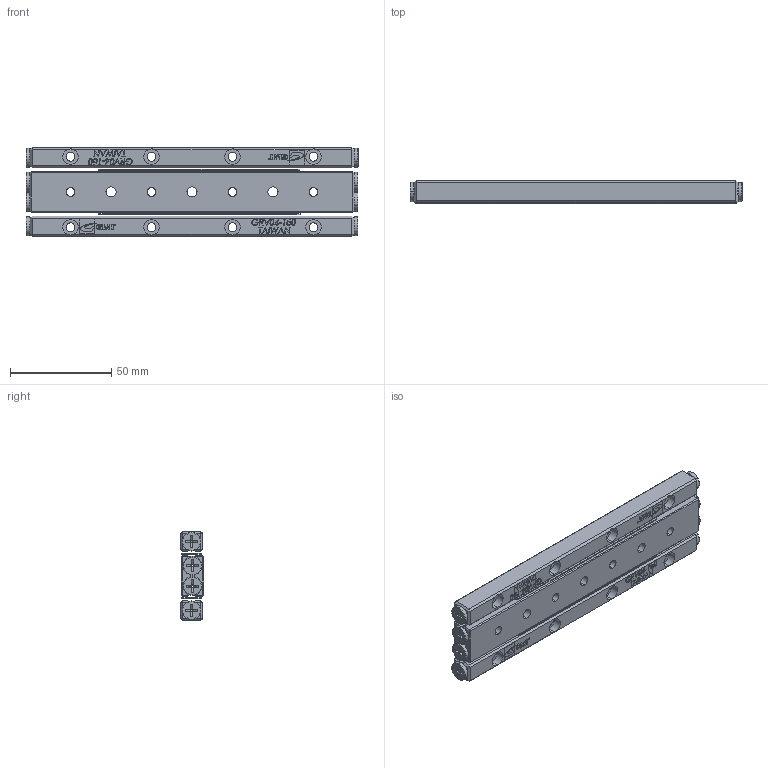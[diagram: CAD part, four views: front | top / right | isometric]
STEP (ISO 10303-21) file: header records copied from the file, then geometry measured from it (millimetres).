
FILE_DESCRIPTION (( 'STEP AP203' ), '1' );
FILE_NAME ('GRD04-160.STEP', '2012-10-17T07:09:56', ( '123' ), ( '' ), 'SwSTEP 2.0', 'SolidWorks 2012', '' );
FILE_SCHEMA (( 'CONFIG_CONTROL_DESIGN' ));
Length unit declared in the file: millimetre
Products named in the file (1): GRD04-160
Bounding box: 164 x 11.5 x 43.93 mm (x, y, z)
Surface area: 31604.8 mm2 (no closed solid volume)
Topology: 0 solids, 37 shells, 539 faces, 2857 edges, 2334 vertices
Faces by surface type: plane 403, cylinder 82, torus 32, bspline 20, cone 2
Entity records: 33062 total; most frequent: CARTESIAN_POINT 11607, DIRECTION 4023, ORIENTED_EDGE 3844, EDGE_CURVE 2857, VERTEX_POINT 2334, VECTOR 1979, LINE 1979, AXIS2_PLACEMENT_3D 1022
